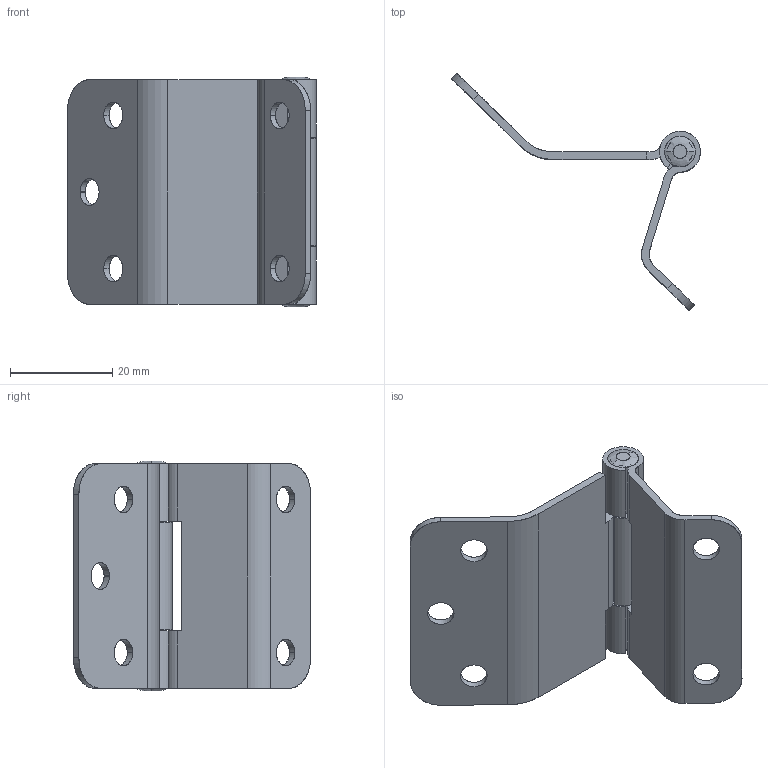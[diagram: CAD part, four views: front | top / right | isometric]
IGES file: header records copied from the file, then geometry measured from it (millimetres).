
Start section: SolidWorks IGES file using analytic representation for surfaces
Global section: file name: C:\Users\cbrechard\Desktop\CD 401.IGS; native system: SolidWorks 2017; preprocessor: SolidWorks 2017; author: cbrechard; date: 191015.103127; units: millimetre
Bounding box: 48.73 x 46.45 x 45 mm (x, y, z)
Surface area: 9619.3 mm2 (no closed solid volume)
Topology: 0 solids, 0 shells, 64 faces, 1336 edges, 1336 vertices
Faces by surface type: revolution 32, bspline 32
